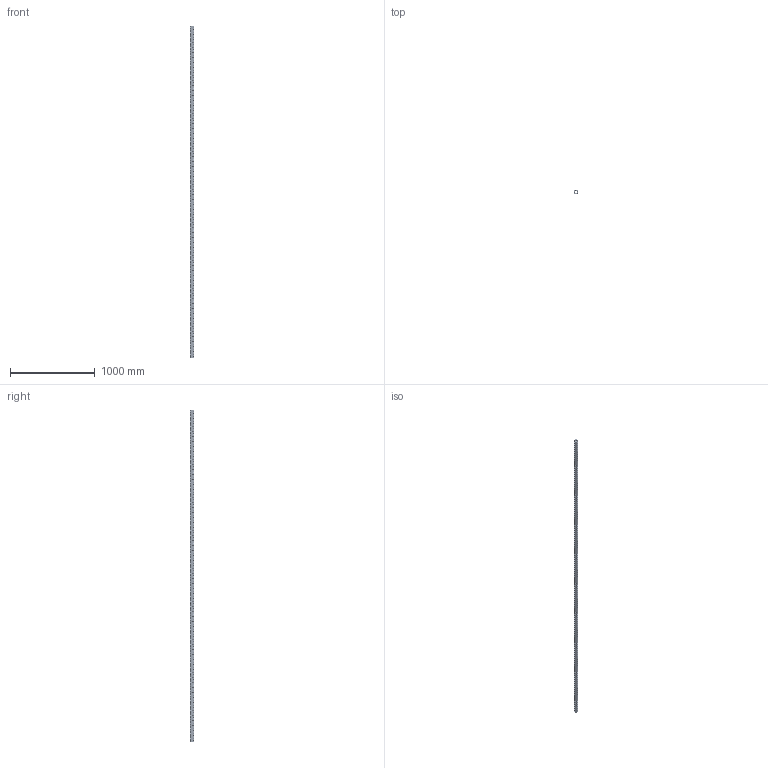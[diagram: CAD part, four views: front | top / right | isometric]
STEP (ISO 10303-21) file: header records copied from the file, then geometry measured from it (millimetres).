
FILE_DESCRIPTION(('CATIA V5 STEP Exchange'),'2;1');
FILE_NAME('U:\Room\唐宝山\EGT002\46-01-010360-01-EGT002-3928.stp','2021-08-25T01:03:56+00:00',('none'),('none'),'CATIA Version 5 Release 21 GA (IN-10)','CATIA V5 STEP AP203','none');
FILE_SCHEMA(('CONFIG_CONTROL_DESIGN'));
Products named in the file (1): 46-01-010360-01-EGT002-3928
Bounding box: 50 x 50 x 3928 mm (x, y, z)
Volume: 2798919.5 mm3; surface area: 1347659.7 mm2
Topology: 1 solids, 1 shells, 5324 faces, 14656 edges, 9072 vertices
Faces by surface type: cone 3144, cylinder 2154, plane 26
Entity records: 225807 total; most frequent: CARTESIAN_POINT 97652, ORIENTED_EDGE 29312, DIRECTION 20383, EDGE_CURVE 14656, AXIS2_PLACEMENT_3D 9428, VERTEX_POINT 9072, EDGE_LOOP 7160, VECTOR 5632
